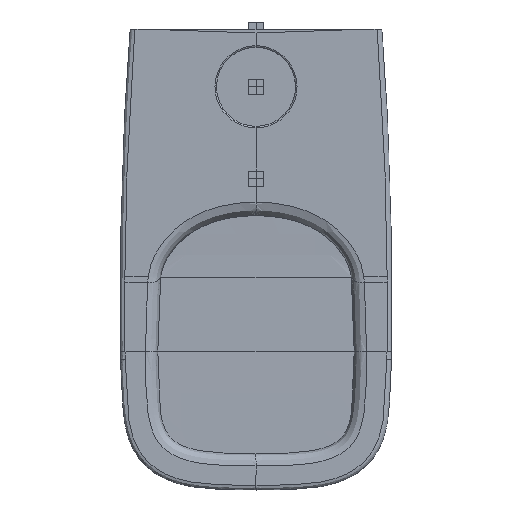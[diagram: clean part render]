
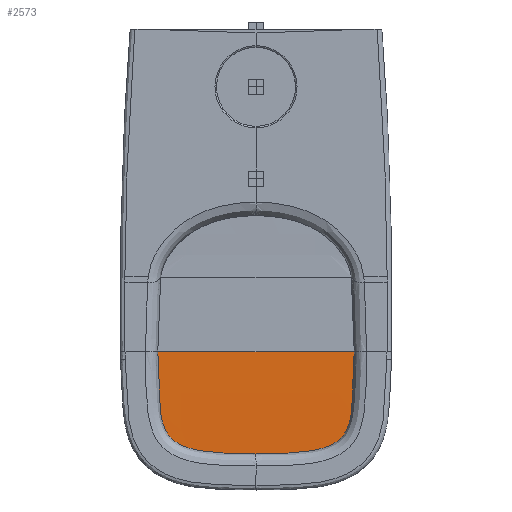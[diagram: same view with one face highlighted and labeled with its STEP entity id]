
A CAD part, top view. The second image highlights one B-rep face of the part: STEP entity #2573.
In plain terms, the highlighted face is a extrusion surface.
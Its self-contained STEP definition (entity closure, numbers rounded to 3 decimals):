
#195=DIRECTION('',(1.,0.,0.));
#196=VECTOR('',#195,255.648);
#197=CARTESIAN_POINT('',(-127.824,-419.622,384.95));
#198=LINE('',#197,#196);
#204=CARTESIAN_POINT('',(127.824,-419.622,384.95));
#205=CARTESIAN_POINT('',(127.851,-425.034,384.954));
#206=CARTESIAN_POINT('',(127.84,-435.407,384.963));
#207=CARTESIAN_POINT('',(127.637,-449.548,384.98));
#208=CARTESIAN_POINT('',(127.262,-462.437,384.998));
#209=CARTESIAN_POINT('',(126.713,-474.163,385.019));
#210=CARTESIAN_POINT('',(125.976,-484.818,385.04));
#211=CARTESIAN_POINT('',(124.999,-494.447,385.056));
#212=CARTESIAN_POINT('',(123.705,-503.057,385.061));
#213=CARTESIAN_POINT('',(122.033,-510.632,385.056));
#214=CARTESIAN_POINT('',(119.958,-517.181,385.048));
#215=CARTESIAN_POINT('',(117.53,-522.663,385.042));
#216=CARTESIAN_POINT('',(114.826,-527.191,385.043));
#217=CARTESIAN_POINT('',(111.808,-531.045,385.05));
#218=CARTESIAN_POINT('',(108.35,-534.464,385.059));
#219=CARTESIAN_POINT('',(104.24,-537.61,385.062));
#220=CARTESIAN_POINT('',(99.176,-540.582,385.058));
#221=CARTESIAN_POINT('',(93.024,-543.331,385.051));
#222=CARTESIAN_POINT('',(85.784,-545.767,385.044));
#223=CARTESIAN_POINT('',(77.392,-547.851,385.037));
#224=CARTESIAN_POINT('',(67.8,-549.537,385.034));
#225=CARTESIAN_POINT('',(56.952,-550.802,385.035));
#226=CARTESIAN_POINT('',(44.799,-551.639,385.028));
#227=CARTESIAN_POINT('',(31.301,-552.064,385.009));
#228=CARTESIAN_POINT('',(16.478,-552.273,384.998));
#229=CARTESIAN_POINT('',(5.643,-552.301,384.996));
#230=CARTESIAN_POINT('',(0.,-552.301,384.996));
#242=CARTESIAN_POINT('',(-127.824,-419.622,384.95));
#243=CARTESIAN_POINT('',(-127.851,-425.034,384.954));
#244=CARTESIAN_POINT('',(-127.84,-435.407,384.963));
#245=CARTESIAN_POINT('',(-127.637,-449.548,384.98));
#246=CARTESIAN_POINT('',(-127.262,-462.437,384.998));
#247=CARTESIAN_POINT('',(-126.713,-474.163,385.019));
#248=CARTESIAN_POINT('',(-125.976,-484.818,385.04));
#249=CARTESIAN_POINT('',(-124.999,-494.447,385.056));
#250=CARTESIAN_POINT('',(-123.705,-503.057,385.061));
#251=CARTESIAN_POINT('',(-122.033,-510.632,385.056));
#252=CARTESIAN_POINT('',(-119.958,-517.181,385.048));
#253=CARTESIAN_POINT('',(-117.53,-522.663,385.042));
#254=CARTESIAN_POINT('',(-114.826,-527.191,385.043));
#255=CARTESIAN_POINT('',(-111.808,-531.045,385.05));
#256=CARTESIAN_POINT('',(-108.35,-534.464,385.059));
#257=CARTESIAN_POINT('',(-104.24,-537.61,385.062));
#258=CARTESIAN_POINT('',(-99.176,-540.582,385.058));
#259=CARTESIAN_POINT('',(-93.024,-543.331,385.051));
#260=CARTESIAN_POINT('',(-85.784,-545.767,385.044));
#261=CARTESIAN_POINT('',(-77.392,-547.851,385.037));
#262=CARTESIAN_POINT('',(-67.8,-549.537,385.034));
#263=CARTESIAN_POINT('',(-56.952,-550.802,385.035));
#264=CARTESIAN_POINT('',(-44.799,-551.639,385.028));
#265=CARTESIAN_POINT('',(-31.301,-552.064,385.009));
#266=CARTESIAN_POINT('',(-16.478,-552.273,384.998));
#267=CARTESIAN_POINT('',(-5.643,-552.301,384.996));
#268=CARTESIAN_POINT('',(0.,-552.301,384.996));
#1718=CARTESIAN_POINT('',(-127.824,-419.622,
384.95));
#1719=VERTEX_POINT('',#1718);
#1746=CARTESIAN_POINT('',(127.824,-419.622,384.95));
#1747=VERTEX_POINT('',#1746);
#1773=CARTESIAN_POINT('',(0.,-552.301,
384.996));
#1774=VERTEX_POINT('',#1773);
#2534=CARTESIAN_POINT('',(0.,-419.622,384.95));
#2535=CARTESIAN_POINT('',(0.,-424.805,384.954));
#2536=CARTESIAN_POINT('',(0.,-434.71,384.962));
#2537=CARTESIAN_POINT('',(0.,-448.917,384.979));
#2538=CARTESIAN_POINT('',(0.,-461.855,384.997));
#2539=CARTESIAN_POINT('',(0.,-473.625,385.018));
#2540=CARTESIAN_POINT('',(0.,-484.303,385.039));
#2541=CARTESIAN_POINT('',(0.,-493.936,385.055));
#2542=CARTESIAN_POINT('',(0.,-502.541,385.061));
#2543=CARTESIAN_POINT('',(0.,-510.116,385.057));
#2544=CARTESIAN_POINT('',(0.,-516.656,385.048));
#2545=CARTESIAN_POINT('',(0.,-522.195,385.042));
#2546=CARTESIAN_POINT('',(0.,-526.852,385.042));
#2547=CARTESIAN_POINT('',(0.,-530.823,385.05));
#2548=CARTESIAN_POINT('',(0.,-534.324,385.059));
#2549=CARTESIAN_POINT('',(0.,-537.515,385.062));
#2550=CARTESIAN_POINT('',(0.,-540.468,385.058));
#2551=CARTESIAN_POINT('',(0.,-543.177,385.052));
#2552=CARTESIAN_POINT('',(0.,-545.591,385.045));
#2553=CARTESIAN_POINT('',(0.,-547.653,385.038));
#2554=CARTESIAN_POINT('',(0.,-549.327,385.034));
#2555=CARTESIAN_POINT('',(0.,-550.589,385.034));
#2556=CARTESIAN_POINT('',(0.,-551.443,385.033));
#2557=CARTESIAN_POINT('',(0.,-551.948,385.015));
#2558=CARTESIAN_POINT('',(0.,-552.191,385.003));
#2559=CARTESIAN_POINT('',(0.,-552.283,384.997));
#2560=CARTESIAN_POINT('',(0.,-552.302,384.996));
#2561=CARTESIAN_POINT('',(0.,-552.303,384.996));
#2563=DIRECTION('',(1.,0.,0.));
#2564=VECTOR('',#2563,1.);
#2565=SURFACE_OF_LINEAR_EXTRUSION('',#2562,#2564);
#2566=ORIENTED_EDGE('',*,*,#2527,.T.);
#2568=ORIENTED_EDGE('',*,*,#2567,.T.);
#2570=ORIENTED_EDGE('',*,*,#2569,.F.);
#2571=EDGE_LOOP('',(#2566,#2568,#2570));
#2572=FACE_OUTER_BOUND('',#2571,.F.);
#231=B_SPLINE_CURVE_WITH_KNOTS('',3,(#204,#205,#206,#207,#208,#209,#210,#211,
#212,#213,#214,#215,#216,#217,#218,#219,#220,#221,#222,#223,#224,#225,#226,#227,
#228,#229,#230),.UNSPECIFIED.,.F.,.F.,(4,1,1,1,1,1,1,1,1,1,1,1,1,1,1,1,1,1,1,1,
1,1,1,1,4),(0.,0.042,0.083,0.125,0.167,
0.208,0.25,0.292,0.333,0.375,
0.417,0.458,0.5,0.542,0.583,
0.625,0.667,0.708,0.75,0.792,
0.833,0.875,0.917,0.958,1.),
.UNSPECIFIED.);
#269=B_SPLINE_CURVE_WITH_KNOTS('',3,(#242,#243,#244,#245,#246,#247,#248,#249,
#250,#251,#252,#253,#254,#255,#256,#257,#258,#259,#260,#261,#262,#263,#264,#265,
#266,#267,#268),.UNSPECIFIED.,.F.,.F.,(4,1,1,1,1,1,1,1,1,1,1,1,1,1,1,1,1,1,1,1,
1,1,1,1,4),(0.,0.042,0.083,0.125,0.167,
0.208,0.25,0.292,0.333,0.375,
0.417,0.458,0.5,0.542,0.583,
0.625,0.667,0.708,0.75,0.792,
0.833,0.875,0.917,0.958,1.),
.UNSPECIFIED.);
#2527=EDGE_CURVE('',#1719,#1747,#198,.T.);
#2562=B_SPLINE_CURVE_WITH_KNOTS('',3,(#2534,#2535,#2536,#2537,#2538,#2539,#2540,
#2541,#2542,#2543,#2544,#2545,#2546,#2547,#2548,#2549,#2550,#2551,#2552,#2553,
#2554,#2555,#2556,#2557,#2558,#2559,#2560,#2561),.UNSPECIFIED.,.F.,.F.,(4,1,1,1,
1,1,1,1,1,1,1,1,1,1,1,1,1,1,1,1,1,1,1,1,1,4),(0.,0.117,
0.224,0.321,0.41,0.49,
0.563,0.628,0.685,0.734,
0.775,0.81,0.839,0.865,
0.889,0.911,0.932,0.95,
0.966,0.979,0.988,0.994,
0.998,1.,1.,1.),.UNSPECIFIED.);
#2567=EDGE_CURVE('',#1747,#1774,#231,.T.);
#2569=EDGE_CURVE('',#1719,#1774,#269,.T.);
#2573=ADVANCED_FACE('',(#2572),#2565,.T.);
